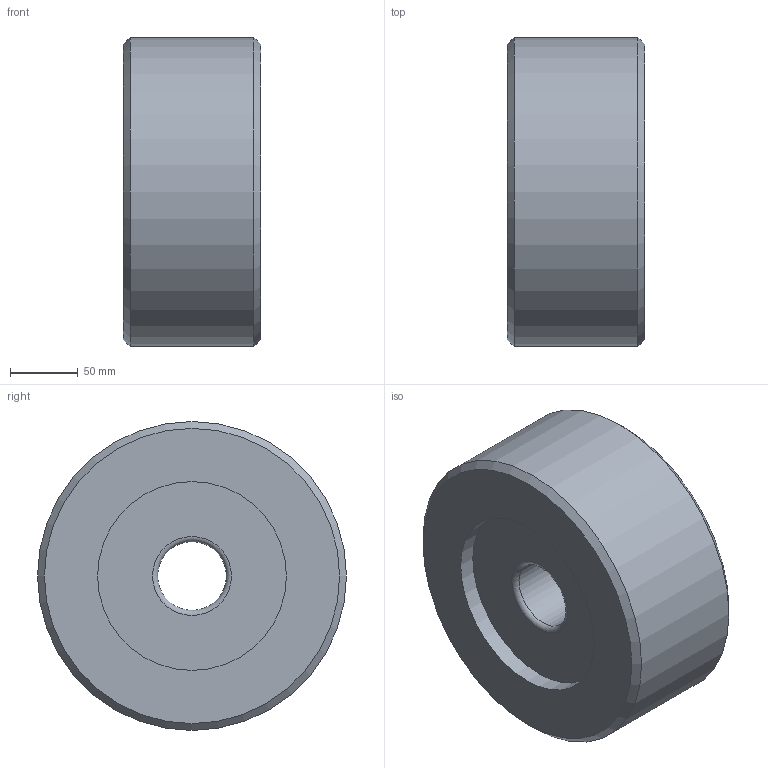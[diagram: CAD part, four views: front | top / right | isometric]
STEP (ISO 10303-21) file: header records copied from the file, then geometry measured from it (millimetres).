
FILE_DESCRIPTION((''),'1');
FILE_NAME('H:/図庫/国内ﾕﾆｯﾄ/ｶﾀﾛｸﾞ/樹脂巻き/ホームページ用ＣＡＤ図面/update用/3D', '2017-07-13T02:25:11',(''), (''), 'KCM Version 1.1.1442.0', 'Kubotek KeyCreator', '');
FILE_SCHEMA(('AUTOMOTIVE_DESIGN'));
Length unit declared in the file: inch
Bounding box: 101.6 x 228.6 x 228.6 mm (x, y, z)
Surface area: 169456.9 mm2 (no closed solid volume)
Topology: 0 solids, 12 shells, 12 faces, 40 edges, 32 vertices
Faces by surface type: plane 4, cylinder 4, torus 2, cone 2
Full cylindrical faces by diameter (mm): 50.8 x1, 139.7 x2, 228.6 x1
Entity records: 476 total; most frequent: DIRECTION 92, CARTESIAN_POINT 81, ORIENTED_EDGE 48, AXIS2_PLACEMENT_3D 43, EDGE_CURVE 40, VERTEX_POINT 32, CIRCLE 30, EDGE_LOOP 16
